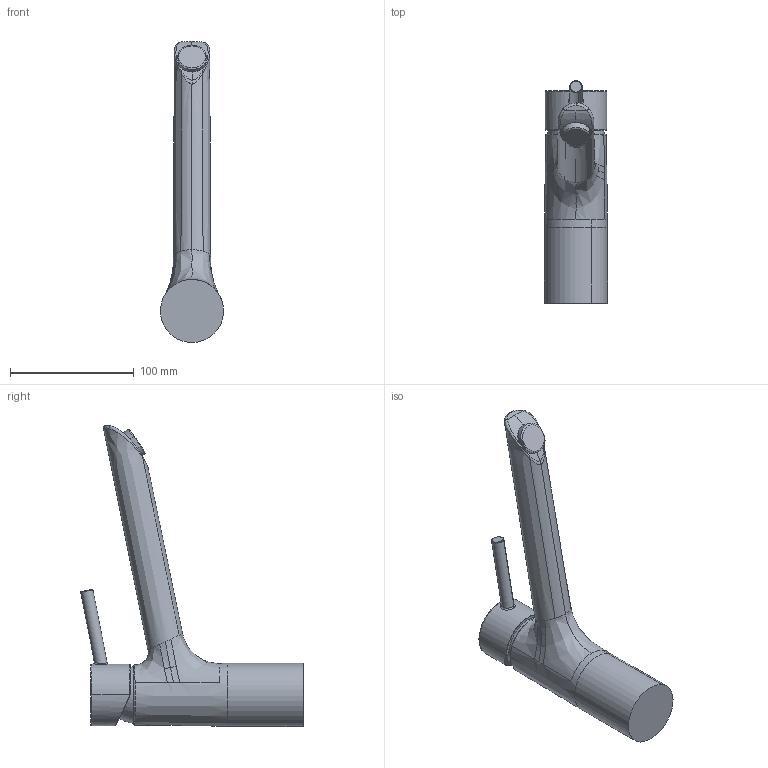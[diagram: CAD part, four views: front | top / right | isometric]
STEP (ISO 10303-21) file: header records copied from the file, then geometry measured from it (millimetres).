
FILE_DESCRIPTION (( 'STEP AP203' ), '1' );
FILE_NAME ('52482277.STEP', '2018-07-31T10:30:32', ( '' ), ( '' ), 'SwSTEP 2.0', 'SolidWorks 2016', '' );
FILE_SCHEMA (( 'CONFIG_CONTROL_DESIGN' ));
Length unit declared in the file: millimetre
Products named in the file (1): 52482277
Bounding box: 50.99 x 179.71 x 243.2 mm (x, y, z)
Volume: 483278.6 mm3; surface area: 51499.1 mm2
Topology: 1 solids, 1 shells, 70 faces, 175 edges, 111 vertices
Faces by surface type: bspline 41, plane 10, cylinder 8, torus 7, cone 4
Entity records: 12378 total; most frequent: CARTESIAN_POINT 10985, ORIENTED_EDGE 350, EDGE_CURVE 175, DIRECTION 138, B_SPLINE_CURVE_WITH_KNOTS 128, VERTEX_POINT 111, EDGE_LOOP 74, ADVANCED_FACE 70
